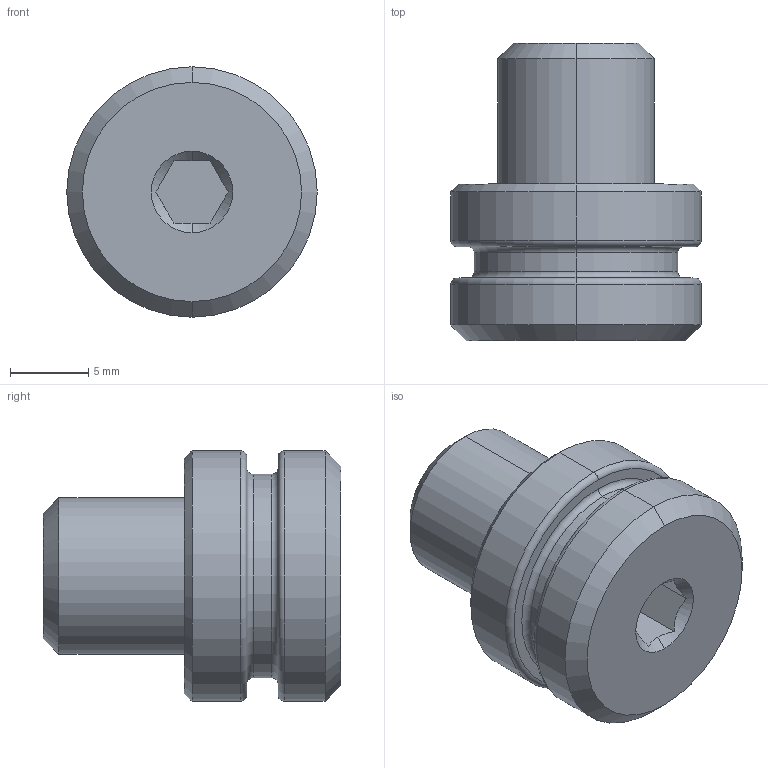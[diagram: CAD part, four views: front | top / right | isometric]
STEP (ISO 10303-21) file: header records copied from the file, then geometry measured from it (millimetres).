
FILE_DESCRIPTION (( 'STEP AP203' ), '1' );
FILE_NAME ('160649.step', '2014-08-11T16:18:31', ( 'User' ), ( '' ), 'SwSTEP 2.0', 'SolidWorks 2014', '' );
FILE_SCHEMA (( 'CONFIG_CONTROL_DESIGN' ));
Length unit declared in the file: millimetre
Products named in the file (2): 160649; 160669 Schraubbund Prisma Foto^160649_Detailliert
Assembly tree (1 placements, depth 2):
  160649
    160669 Schraubbund Prisma Foto^160649_Detailliert
Bounding box: 16 x 19 x 16 mm (x, y, z)
Volume: 2478.1 mm3; surface area: 1260.2 mm2
Topology: 1 solids, 1 shells, 36 faces, 76 edges, 46 vertices
Faces by surface type: plane 12, cone 8, cylinder 8, torus 8
Entity records: 1212 total; most frequent: CARTESIAN_POINT 226, DIRECTION 188, ORIENTED_EDGE 152, AXIS2_PLACEMENT_3D 80, EDGE_CURVE 76, VERTEX_POINT 46, EDGE_LOOP 40, CIRCLE 40
